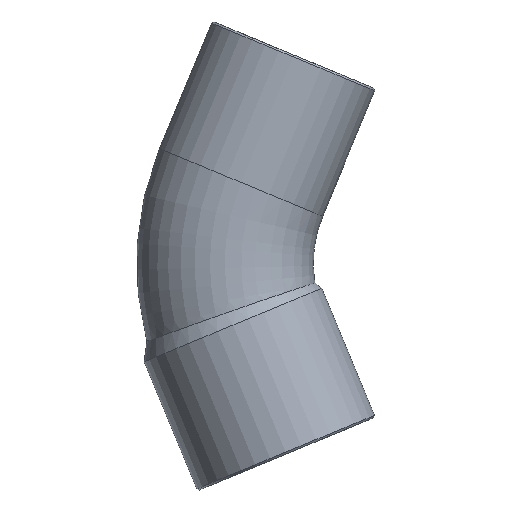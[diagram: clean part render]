
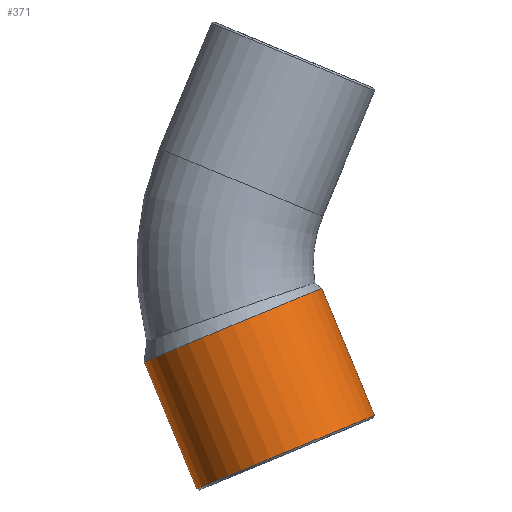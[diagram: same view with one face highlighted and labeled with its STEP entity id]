
A CAD part, front view. The second image highlights one B-rep face of the part: STEP entity #371.
In plain terms, the highlighted cylindrical face has radius 9.8 mm (diameter 19.6 mm), a partial arc.
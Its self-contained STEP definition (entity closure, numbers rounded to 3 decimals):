
#178=CARTESIAN_POINT('',(-25.402,0.,-10.019));
#179=VERTEX_POINT('',#178);
#186=CARTESIAN_POINT('',(-7.294,0.,-2.519));
#187=VERTEX_POINT('',#186);
#188=CARTESIAN_POINT('',(-16.348,0.,-6.269));
#189=DIRECTION('',(-0.383,0.,0.924));
#190=DIRECTION('',(0.924,0.,0.383));
#191=AXIS2_PLACEMENT_3D('',#188,#189,#190);
#192=CIRCLE('',#191,9.8);
#193=EDGE_CURVE('',#179,#187,#192,.T.);
#340=CARTESIAN_POINT('',(-16.266,0.,-6.467));
#341=DIRECTION('',(0.383,0.,-0.924));
#342=DIRECTION('',(0.924,0.,0.383));
#343=AXIS2_PLACEMENT_3D('',#340,#341,#342);
#344=CYLINDRICAL_SURFACE('',#343,9.8);
#345=CARTESIAN_POINT('',(-1.931,0.,-15.466));
#346=VERTEX_POINT('',#345);
#347=CARTESIAN_POINT('',(-7.294,0.,-2.519));
#348=DIRECTION('',(0.383,0.,-0.924));
#349=VECTOR('',#348,14.014);
#350=LINE('',#347,#349);
#351=EDGE_CURVE('',#187,#346,#350,.T.);
#352=ORIENTED_EDGE('',*,*,#351,.F.);
#353=ORIENTED_EDGE('',*,*,#193,.F.);
#354=CARTESIAN_POINT('',(-20.039,0.,-22.967));
#355=VERTEX_POINT('',#354);
#356=CARTESIAN_POINT('',(-20.039,0.,-22.967));
#357=DIRECTION('',(-0.383,0.,0.924));
#358=VECTOR('',#357,14.014);
#359=LINE('',#356,#358);
#360=EDGE_CURVE('',#355,#179,#359,.T.);
#361=ORIENTED_EDGE('',*,*,#360,.F.);
#362=CARTESIAN_POINT('',(-10.985,0.,-19.217));
#363=DIRECTION('',(0.383,0.,-0.924));
#364=DIRECTION('',(0.924,0.,0.383));
#365=AXIS2_PLACEMENT_3D('',#362,#363,#364);
#366=CIRCLE('',#365,9.8);
#367=EDGE_CURVE('',#346,#355,#366,.T.);
#368=ORIENTED_EDGE('',*,*,#367,.F.);
#369=EDGE_LOOP('',(#352,#353,#361,#368));
#370=FACE_OUTER_BOUND('',#369,.T.);
#371=ADVANCED_FACE('',(#370),#344,.T.);
